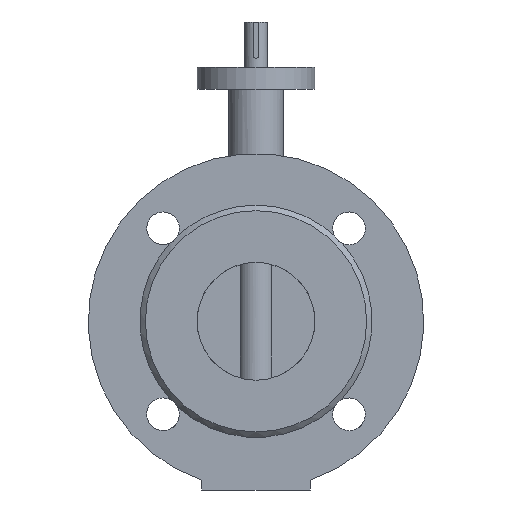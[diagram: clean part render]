
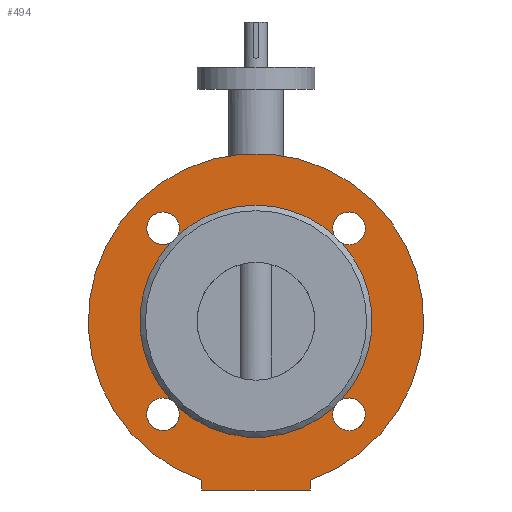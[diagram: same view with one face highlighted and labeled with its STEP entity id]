
A CAD part, front view. The second image highlights one B-rep face of the part: STEP entity #494.
In plain terms, the highlighted planar face has unit normal (0, -1, 0).
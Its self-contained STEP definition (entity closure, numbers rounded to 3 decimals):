
#494=ADVANCED_FACE('',(#1104,#1106),#1108,.T.);
#1104=FACE_BOUND('',#1105,.T.);
#1105=EDGE_LOOP('',(#1544,#1545,#1546,#1547));
#1106=FACE_BOUND('',#1107,.T.);
#1107=EDGE_LOOP('',(#1548,#1549,#1550,#1551,#1552,#1553,#1554,#1555,#1556,#1557,
#1558,#1559,#1560));
#1108=PLANE('',#1109);
#1109=AXIS2_PLACEMENT_3D('',#1110,#1111,#1112);
#1110=CARTESIAN_POINT('',(0.,-53.,0.));
#1111=DIRECTION('',(0.,-1.,0.));
#1112=DIRECTION('',(0.,0.,1.));
#1544=ORIENTED_EDGE('',*,*,#1771,.T.);
#1545=ORIENTED_EDGE('',*,*,#1769,.F.);
#1546=ORIENTED_EDGE('',*,*,#1767,.F.);
#1547=ORIENTED_EDGE('',*,*,#1766,.F.);
#1548=ORIENTED_EDGE('',*,*,#1774,.T.);
#1549=ORIENTED_EDGE('',*,*,#1776,.T.);
#1550=ORIENTED_EDGE('',*,*,#1811,.T.);
#1551=ORIENTED_EDGE('',*,*,#1779,.T.);
#1552=ORIENTED_EDGE('',*,*,#1778,.T.);
#1553=ORIENTED_EDGE('',*,*,#1812,.T.);
#1554=ORIENTED_EDGE('',*,*,#1782,.T.);
#1555=ORIENTED_EDGE('',*,*,#1781,.T.);
#1556=ORIENTED_EDGE('',*,*,#1813,.T.);
#1557=ORIENTED_EDGE('',*,*,#1783,.T.);
#1558=ORIENTED_EDGE('',*,*,#1785,.T.);
#1559=ORIENTED_EDGE('',*,*,#1814,.T.);
#1560=ORIENTED_EDGE('',*,*,#1815,.T.);
#1766=EDGE_CURVE('',#2025,#2023,#2027,.T.);
#1767=EDGE_CURVE('',#2023,#2028,#2029,.T.);
#1769=EDGE_CURVE('',#2028,#2031,#2032,.T.);
#1771=EDGE_CURVE('',#2025,#2031,#2034,.T.);
#1774=EDGE_CURVE('',#2037,#2038,#2039,.F.);
#1776=EDGE_CURVE('',#2038,#2040,#2042,.F.);
#1778=EDGE_CURVE('',#2046,#2043,#2047,.F.);
#1779=EDGE_CURVE('',#2044,#2046,#2048,.F.);
#1781=EDGE_CURVE('',#2052,#2049,#2053,.F.);
#1782=EDGE_CURVE('',#2050,#2052,#2054,.F.);
#1783=EDGE_CURVE('',#2055,#2056,#2057,.F.);
#1785=EDGE_CURVE('',#2056,#2058,#2060,.F.);
#1811=EDGE_CURVE('',#2040,#2044,#2107,.T.);
#1812=EDGE_CURVE('',#2043,#2050,#2108,.T.);
#1813=EDGE_CURVE('',#2049,#2055,#2109,.T.);
#1814=EDGE_CURVE('',#2058,#2110,#2111,.T.);
#1815=EDGE_CURVE('',#2110,#2037,#2112,.T.);
#2023=VERTEX_POINT('',#2849);
#2025=VERTEX_POINT('',#2853);
#2027=CIRCLE('',#2857,92.5);
#2028=VERTEX_POINT('',#2861);
#2029=LINE('',#2862,#2863);
#2031=VERTEX_POINT('',#2868);
#2032=LINE('',#2869,#2870);
#2034=LINE('',#2875,#2876);
#2037=VERTEX_POINT('',#2884);
#2038=VERTEX_POINT('',#2885);
#2039=CIRCLE('',#2886,9.);
#2040=VERTEX_POINT('',#2890);
#2042=CIRCLE('',#2942,9.);
#2043=VERTEX_POINT('',#2946);
#2044=VERTEX_POINT('',#2947);
#2046=VERTEX_POINT('',#2999);
#2047=CIRCLE('',#3000,9.);
#2048=CIRCLE('',#3004,9.);
#2049=VERTEX_POINT('',#3008);
#2050=VERTEX_POINT('',#3009);
#2052=VERTEX_POINT('',#3061);
#2053=CIRCLE('',#3062,9.);
#2054=CIRCLE('',#3066,9.);
#2055=VERTEX_POINT('',#3070);
#2056=VERTEX_POINT('',#3071);
#2057=CIRCLE('',#3072,9.);
#2058=VERTEX_POINT('',#3076);
#2060=CIRCLE('',#3128,9.);
#2107=CIRCLE('',#3434,64.);
#2108=CIRCLE('',#3438,64.);
#2109=CIRCLE('',#3442,64.);
#2110=VERTEX_POINT('',#3446);
#2111=CIRCLE('',#3447,64.);
#2112=CIRCLE('',#3451,64.);
#2849=CARTESIAN_POINT('',(30.,-53.,-87.5));
#2853=CARTESIAN_POINT('',(-30.,-53.,-87.5));
#2857=AXIS2_PLACEMENT_3D('',#2858,#2859,#2860);
#2858=CARTESIAN_POINT('',(0.,-53.,0.));
#2859=DIRECTION('',(0.,1.,0.));
#2860=DIRECTION('',(-0.324,0.,-0.946));
#2861=CARTESIAN_POINT('',(30.,-53.,-93.));
#2862=CARTESIAN_POINT('',(30.,-53.,-87.5));
#2863=VECTOR('',#2864,1.);
#2864=DIRECTION('',(0.,0.,-1.));
#2868=CARTESIAN_POINT('',(-30.,-53.,-93.));
#2869=CARTESIAN_POINT('',(30.,-53.,-93.));
#2870=VECTOR('',#2871,1.);
#2871=DIRECTION('',(-1.,0.,0.));
#2875=CARTESIAN_POINT('',(-30.,-53.,-87.5));
#2876=VECTOR('',#2877,1.);
#2877=DIRECTION('',(0.,0.,-1.));
#2884=CARTESIAN_POINT('',(43.247,-53.,47.177));
#2885=CARTESIAN_POINT('',(51.265,-53.,42.265));
#2886=AXIS2_PLACEMENT_3D('',#2887,#2888,#2889);
#2887=CARTESIAN_POINT('',(51.265,-53.,51.265));
#2888=DIRECTION('',(0.,-1.,0.));
#2889=DIRECTION('',(0.,0.,-1.));
#2890=CARTESIAN_POINT('',(47.177,-53.,43.247));
#2942=AXIS2_PLACEMENT_3D('',#2943,#2944,#2945);
#2943=CARTESIAN_POINT('',(51.265,-53.,51.265));
#2944=DIRECTION('',(0.,-1.,0.));
#2945=DIRECTION('',(-0.454,0.,-0.891));
#2946=CARTESIAN_POINT('',(43.247,-53.,-47.177));
#2947=CARTESIAN_POINT('',(47.177,-53.,-43.247));
#2999=CARTESIAN_POINT('',(42.265,-53.,-51.265));
#3000=AXIS2_PLACEMENT_3D('',#3001,#3002,#3003);
#3001=CARTESIAN_POINT('',(51.265,-53.,-51.265));
#3002=DIRECTION('',(0.,-1.,0.));
#3003=DIRECTION('',(-0.891,0.,0.454));
#3004=AXIS2_PLACEMENT_3D('',#3005,#3006,#3007);
#3005=CARTESIAN_POINT('',(51.265,-53.,-51.265));
#3006=DIRECTION('',(0.,-1.,0.));
#3007=DIRECTION('',(-1.,0.,0.));
#3008=CARTESIAN_POINT('',(-47.177,-53.,-43.247));
#3009=CARTESIAN_POINT('',(-43.247,-53.,-47.177));
#3061=CARTESIAN_POINT('',(-51.265,-53.,-42.265));
#3062=AXIS2_PLACEMENT_3D('',#3063,#3064,#3065);
#3063=CARTESIAN_POINT('',(-51.265,-53.,-51.265));
#3064=DIRECTION('',(0.,-1.,0.));
#3065=DIRECTION('',(0.454,0.,0.891));
#3066=AXIS2_PLACEMENT_3D('',#3067,#3068,#3069);
#3067=CARTESIAN_POINT('',(-51.265,-53.,-51.265));
#3068=DIRECTION('',(0.,-1.,0.));
#3069=DIRECTION('',(0.,0.,1.));
#3070=CARTESIAN_POINT('',(-47.177,-53.,43.247));
#3071=CARTESIAN_POINT('',(-42.265,-53.,51.265));
#3072=AXIS2_PLACEMENT_3D('',#3073,#3074,#3075);
#3073=CARTESIAN_POINT('',(-51.265,-53.,51.265));
#3074=DIRECTION('',(0.,-1.,0.));
#3075=DIRECTION('',(1.,0.,0.));
#3076=CARTESIAN_POINT('',(-43.247,-53.,47.177));
#3128=AXIS2_PLACEMENT_3D('',#3129,#3130,#3131);
#3129=CARTESIAN_POINT('',(-51.265,-53.,51.265));
#3130=DIRECTION('',(0.,-1.,0.));
#3131=DIRECTION('',(0.891,0.,-0.454));
#3434=AXIS2_PLACEMENT_3D('',#3435,#3436,#3437);
#3435=CARTESIAN_POINT('',(0.,-53.,0.));
#3436=DIRECTION('',(0.,1.,0.));
#3437=DIRECTION('',(0.737,0.,0.676));
#3438=AXIS2_PLACEMENT_3D('',#3439,#3440,#3441);
#3439=CARTESIAN_POINT('',(0.,-53.,0.));
#3440=DIRECTION('',(0.,1.,0.));
#3441=DIRECTION('',(0.676,0.,-0.737));
#3442=AXIS2_PLACEMENT_3D('',#3443,#3444,#3445);
#3443=CARTESIAN_POINT('',(0.,-53.,0.));
#3444=DIRECTION('',(0.,1.,0.));
#3445=DIRECTION('',(-0.737,0.,-0.676));
#3446=CARTESIAN_POINT('',(0.,-53.,64.));
#3447=AXIS2_PLACEMENT_3D('',#3448,#3449,#3450);
#3448=CARTESIAN_POINT('',(0.,-53.,0.));
#3449=DIRECTION('',(0.,1.,0.));
#3450=DIRECTION('',(-0.676,0.,0.737));
#3451=AXIS2_PLACEMENT_3D('',#3452,#3453,#3454);
#3452=CARTESIAN_POINT('',(0.,-53.,0.));
#3453=DIRECTION('',(0.,1.,0.));
#3454=DIRECTION('',(0.,0.,1.));
